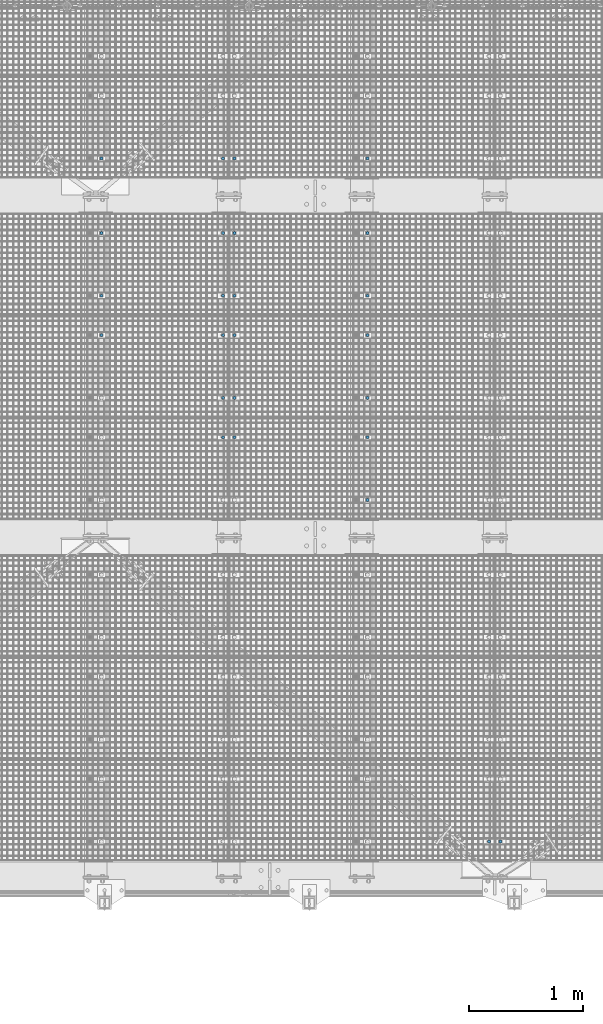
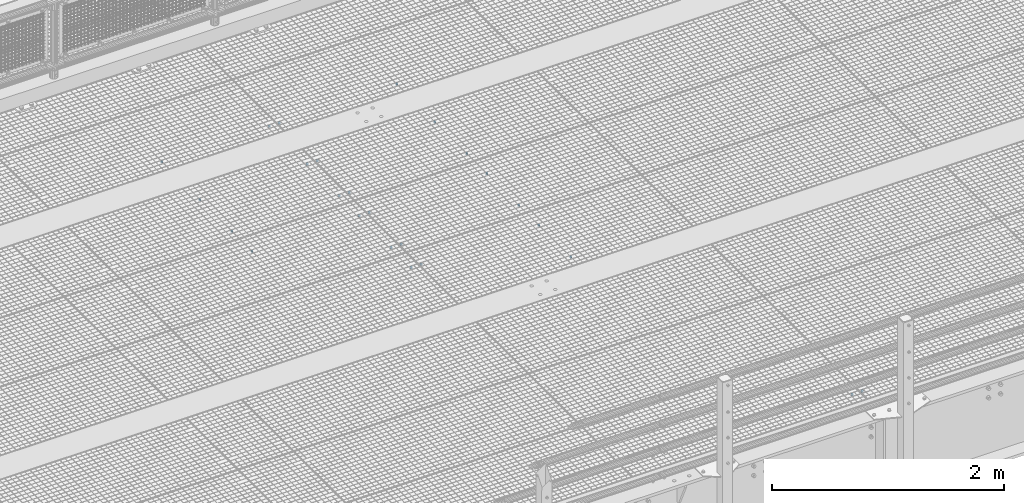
# One storey, part 65 of 1530: 25 mechanical fasteners.
"""IFC2X3 building model written with IfcOpenShell, lengths in millimetres."""

import ifcopenshell
import ifcopenshell.guid

model = None  # the IFC model being written
_history = None  # IfcOwnerHistory: only IFC2X3 demands one
_inside = {}  # id of a spatial element -> (the spatial element, [elements in it])
_under = {}  # id of a project, library or spatial element -> (it, [spatial elements below it])
_declared = {}  # id of a project -> (the project, [libraries it declares])
_typed = {}  # id of a type object -> (the type object, [elements of that type])
_made_of = {}  # id of a material, layer set ... -> (it, [elements and type objects made of it])


def new_model(schema):
    """Start an empty IFC model of exactly this schema.

    Asked for "IFC4X3", IfcOpenShell would pick the latest addendum, in which some entities
    have other attributes; the version numbers below select the first issue.
    IFC2X3 requires an IfcOwnerHistory on every rooted entity: one is made here for all.
    """
    global model, _history
    if schema == "IFC4X3":
        model = ifcopenshell.file(schema_version=(4, 3, 0, 0))
    else:
        model = ifcopenshell.file(schema=schema)
    _inside.clear()
    _under.clear()
    _declared.clear()
    _typed.clear()
    _made_of.clear()
    _history = None
    if model.schema == "IFC2X3":
        org = make("IfcOrganization", Name="unknown")
        user = make(
            "IfcPersonAndOrganization",
            ThePerson=make("IfcPerson", FamilyName="unknown"),
            TheOrganization=org,
        )
        app = make(
            "IfcApplication",
            ApplicationDeveloper=org,
            Version="unknown",
            ApplicationFullName="unknown",
            ApplicationIdentifier="unknown",
        )
        _history = make(
            "IfcOwnerHistory",
            OwningUser=user,
            OwningApplication=app,
            ChangeAction="ADDED",
            CreationDate=0,
        )
    return model


def make(cls, **values):
    """One entity of the class cls with the attributes given. An attribute that is None is left unset."""
    return model.create_entity(
        cls, **{name: value for name, value in values.items() if value is not None}
    )


def rooted(cls, **values):
    """An entity with a GlobalId (a new one), such as an element, a storey or a relation."""
    return make(cls, GlobalId=ifcopenshell.guid.new(), OwnerHistory=_history, **values)


def si_unit(unit_type, name, prefix=None):
    """IfcSIUnit, for example si_unit("LENGTHUNIT", "METRE", prefix="MILLI")."""
    return make("IfcSIUnit", UnitType=unit_type, Prefix=prefix, Name=name)


def assignment(units):
    """IfcUnitAssignment: the units of a project."""
    return None if units is None else make("IfcUnitAssignment", Units=units)


def point(xyz):
    """IfcCartesianPoint."""
    return None if xyz is None else make("IfcCartesianPoint", Coordinates=xyz)


def direction(xyz):
    """IfcDirection."""
    return None if xyz is None else make("IfcDirection", DirectionRatios=xyz)


def frame(location, z_axis=None, x_axis=None):
    """IfcAxis2Placement3D, a coordinate frame: its origin and axes. An axis left out is left unset."""
    return make(
        "IfcAxis2Placement3D",
        Location=point(location),
        Axis=direction(z_axis),
        RefDirection=direction(x_axis),
    )


def origin_with_axes():
    """The frame at (0, 0, 0) with the z axis (0, 0, 1) and the x axis (1, 0, 0) written out."""
    return frame((0.0, 0.0, 0.0), z_axis=(0.0, 0.0, 1.0), x_axis=(1.0, 0.0, 0.0))


def place(relative_to, where):
    """IfcLocalPlacement: puts the frame where relative to a parent placement (None: the world)."""
    return make(
        "IfcLocalPlacement", PlacementRelTo=relative_to, RelativePlacement=where
    )


def context(
    kind, dimensions, precision=None, world=None, true_north=None, identifier=None
):
    """IfcGeometricRepresentationContext, for example the 3D "Model" context."""
    return make(
        "IfcGeometricRepresentationContext",
        ContextIdentifier=identifier,
        ContextType=kind,
        CoordinateSpaceDimension=dimensions,
        Precision=precision,
        WorldCoordinateSystem=world,
        TrueNorth=true_north,
    )


def subcontext(parent, identifier, kind, view, scale=None):
    """IfcGeometricRepresentationSubContext, for example "Body" below "Model"."""
    return make(
        "IfcGeometricRepresentationSubContext",
        ContextIdentifier=identifier,
        ContextType=kind,
        ParentContext=parent,
        TargetScale=scale,
        TargetView=view,
    )


def project(units=None, contexts=None):
    """IfcProject with its units and contexts."""
    return rooted(
        "IfcProject",
        Name="project",
        RepresentationContexts=contexts,
        UnitsInContext=assignment(units),
    )


def spatial(cls, under=None, at=None, **own):
    """A site, building, storey or space (cls), placed at a placement, below another one or the project."""
    s = rooted(cls, ObjectPlacement=at, **own)
    if under is not None:
        _under.setdefault(under.id(), (under, []))[1].append(s)
    return s


def faces_of(points, faces, orient=None, outer=None):
    """IfcFace entities. A face is a list of loops; a loop is a list of indices into points, from 0.

    orient and outer hold one flag for each loop. By default every Orientation is true, the
    first loop of a face is its IfcFaceOuterBound and the others are IfcFaceBound.
    """
    made = []
    for i, loops in enumerate(faces):
        bounds = []
        for j, loop in enumerate(loops):
            is_outer = j == 0 if outer is None else outer[i][j]
            bounds.append(
                make(
                    "IfcFaceOuterBound" if is_outer else "IfcFaceBound",
                    Bound=make("IfcPolyLoop", Polygon=[points[k] for k in loop]),
                    Orientation=True if orient is None else orient[i][j],
                )
            )
        made.append(make("IfcFace", Bounds=bounds))
    return made


def faceted_brep(points, faces, orient=None, outer=None, voids=None):
    """IfcFacetedBrep: a solid bounded by flat faces; with voids (closed shells), ...WithVoids."""
    shared = [point(p) for p in points]
    hull = make("IfcClosedShell", CfsFaces=faces_of(shared, faces, orient, outer))
    if voids is None:
        return make("IfcFacetedBrep", Outer=hull)
    return make(
        "IfcFacetedBrepWithVoids",
        Outer=hull,
        Voids=[
            make(cls, CfsFaces=faces_of(shared, fs, o, b)) for cls, fs, o, b in voids
        ],
    )


def shape(context_of_items, identifier, shape_type, items):
    """IfcShapeRepresentation: the items that make up one representation, for example the "Body"."""
    return make(
        "IfcShapeRepresentation",
        ContextOfItems=context_of_items,
        RepresentationIdentifier=identifier,
        RepresentationType=shape_type,
        Items=items,
    )


def source(mapping_origin, context_of_items, identifier, shape_type, items):
    """IfcRepresentationMap: a shape defined once, which mapped items show again and again."""
    return make(
        "IfcRepresentationMap",
        MappingOrigin=mapping_origin,
        MappedRepresentation=shape(context_of_items, identifier, shape_type, items),
    )


def transform(
    local_origin,
    x_axis=None,
    y_axis=None,
    z_axis=None,
    scale=None,
    scale2=None,
    scale3=None,
    uniform=True,
):
    """IfcCartesianTransformationOperator3D, or its non-uniform kind. x_axis, y_axis, z_axis: its Axis1, 2, 3."""
    if uniform:
        return make(
            "IfcCartesianTransformationOperator3D",
            Axis1=direction(x_axis),
            Axis2=direction(y_axis),
            LocalOrigin=point(local_origin),
            Scale=scale,
            Axis3=direction(z_axis),
        )
    return make(
        "IfcCartesianTransformationOperator3DnonUniform",
        Axis1=direction(x_axis),
        Axis2=direction(y_axis),
        LocalOrigin=point(local_origin),
        Scale=scale,
        Axis3=direction(z_axis),
        Scale2=scale2,
        Scale3=scale3,
    )


def mapped(mapping_source, mapping_target):
    """IfcMappedItem: shows the shape of a source again, moved by a transform."""
    return make(
        "IfcMappedItem", MappingSource=mapping_source, MappingTarget=mapping_target
    )


def material(Name=None, Category=None):
    """IfcMaterial."""
    return make("IfcMaterial", Name=Name, Category=Category)


def made_of(thing, what):
    """Note that an element or type object is made of a material, layer set ...; save() writes the relation."""
    if what is not None:
        _made_of.setdefault(what.id(), (what, []))[1].append(thing)
    return thing


def type_object(cls, material=None, **own):
    """A type object (cls), such as IfcWallType, which elements share."""
    return made_of(rooted(cls, **own), material)


def element(
    cls,
    number,
    at=None,
    inside=None,
    cuts=None,
    type_object=None,
    material=None,
    context=None,
    identifier="Body",
    shape_type=None,
    held_by="IfcProductDefinitionShape",
    body=None,
    shapes=None,
    **own,
):
    """One element of the class cls, such as IfcWall. Its Tag is "e" and its number.

    at: its placement. inside: the storey or other place that contains it. cuts: it is an
    opening in that element (IfcRelVoidsElement). A single representation is given by context,
    identifier, shape_type and body (its items); several are given by shapes. held_by: the class
    of the entity that holds the representations. save() writes the other relations.
    """
    e = rooted(cls, Tag="e%d" % number, ObjectPlacement=at, **own)
    if body is not None:
        shapes = [shape(context, identifier, shape_type, body)]
    if shapes is not None:
        e.Representation = make(held_by, Representations=shapes)
    if inside is not None:
        _inside.setdefault(inside.id(), (inside, []))[1].append(e)
    if cuts is not None:
        rooted(
            "IfcRelVoidsElement", RelatingBuildingElement=cuts, RelatedOpeningElement=e
        )
    if type_object is not None:
        _typed.setdefault(type_object.id(), (type_object, []))[1].append(e)
    return made_of(e, material)


def aggregate(whole, parts):
    """IfcRelAggregates: a whole, such as a stair, and the parts it consists of."""
    return rooted("IfcRelAggregates", RelatingObject=whole, RelatedObjects=parts)


def save(model, path):
    """Write the relations noted so far, then the file.

    IfcRelAggregates (storeys below a building ...), IfcRelContainedInSpatialStructure (elements
    in a storey), IfcRelDefinesByType, IfcRelAssociatesMaterial and IfcRelDeclares: one each for
    every whole, place, type object, material and project.
    """
    for whole, parts in _under.values():
        aggregate(whole, parts)
    for where, things in _inside.values():
        rooted(
            "IfcRelContainedInSpatialStructure",
            RelatedElements=things,
            RelatingStructure=where,
        )
    for kind, things in _typed.values():
        rooted("IfcRelDefinesByType", RelatedObjects=things, RelatingType=kind)
    for what, things in _made_of.values():
        rooted("IfcRelAssociatesMaterial", RelatedObjects=things, RelatingMaterial=what)
    for by, libraries in _declared.values():
        rooted("IfcRelDeclares", RelatingContext=by, RelatedDefinitions=libraries)
    model.write(path)


model = new_model("IFC2X3")

# Units and contexts
model_context = context("Model", 3, precision=1e-05, world=origin_with_axes())
body_context = subcontext(model_context, "Body", "Model", "MODEL_VIEW")
ifc_project = project(units=[si_unit("LENGTHUNIT", "METRE", prefix="MILLI"), si_unit("AREAUNIT", "SQUARE_METRE"), si_unit("VOLUMEUNIT", "CUBIC_METRE"), si_unit("MASSUNIT", "GRAM", prefix="KILO"), si_unit("TIMEUNIT", "SECOND"), si_unit("PLANEANGLEUNIT", "RADIAN"), si_unit("SOLIDANGLEUNIT", "STERADIAN"), si_unit("THERMODYNAMICTEMPERATUREUNIT", "DEGREE_CELSIUS"), si_unit("LUMINOUSINTENSITYUNIT", "LUMEN")], contexts=[model_context])

# Site, building, storey
site_placement = place(None, origin_with_axes())
site = spatial("IfcSite", under=ifc_project, at=site_placement, Name="Brattvåg", CompositionType="ELEMENT")
building_placement = place(site_placement, origin_with_axes())
building = spatial("IfcBuilding", under=site, at=building_placement, Name="Undefined", CompositionType="ELEMENT")
storey_placement = place(building_placement, origin_with_axes())
storey = spatial("IfcBuildingStorey", under=building, at=storey_placement, Name="Undefined", CompositionType="ELEMENT", Elevation=0.0)

# Mechanical fasteners
ifc_material = material(Name="8")
mechanical_fastener_type = type_object("IfcMechanicalFastenerType", Name="Bolt assembly")
shared_shape = source(origin_with_axes(), body_context, "Body", "Brep", [
    faceted_brep([(11.0, -4.99999999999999, 0.0), (9.52627944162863, -4.99999999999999, 5.50000000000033), (5.49999999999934, -4.99999999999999, 9.5262794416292), (-1.13996957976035e-12, -4.99999999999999, 11.0), (-5.50000000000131, -4.99999999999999, 9.52627944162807), (-9.52627944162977, -4.99999999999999, 5.49999999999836), (-11.0, -4.99999999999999, -2.27993915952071e-12), (-9.5262794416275, -4.99999999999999, -5.5000000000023), (-5.49999999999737, -4.99999999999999, -9.52627944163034), (3.40769628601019e-12, -4.99999999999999, -11.0), (5.50000000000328, -4.99999999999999, -9.52627944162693), (9.52627944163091, -4.99999999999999, -5.49999999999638), (9.52627944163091, 10.1, -5.49999999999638), (5.50000000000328, 10.1, -9.52627944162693), (3.40769628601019e-12, 10.1, -11.0), (-5.49999999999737, 10.1, -9.52627944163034), (-9.5262794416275, 10.1, -5.5000000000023), (-11.0, 10.1, -2.27993915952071e-12), (-9.52627944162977, 10.1, 5.49999999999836), (-5.50000000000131, 10.1, 9.52627944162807), (-1.13996957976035e-12, 10.1, 11.0), (5.49999999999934, 10.1, 9.5262794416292), (9.52627944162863, 10.1, 5.50000000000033), (11.0, 10.1, 0.0)], [[[0, 1, 2, 3, 4, 5, 6, 7, 8, 9, 10, 11]], [[12, 13, 14, 15, 16, 17, 18, 19, 20, 21, 22, 23]], [[0, 23, 22, 1]], [[1, 22, 21, 2]], [[2, 21, 20, 3]], [[3, 20, 19, 4]], [[4, 19, 18, 5]], [[5, 18, 17, 6]], [[6, 17, 16, 7]], [[7, 16, 15, 8]], [[8, 15, 14, 9]], [[9, 14, 13, 10]], [[10, 13, 12, 11]], [[11, 12, 23, 0]]]),
])
for number, where, z_axis, x_axis, name in (
    (1, (7628.00477935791, 327.989311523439, -35.0), (0.0, 1.0, 0.0), (1.0, 0.0, 0.0), "Bolt assembly"),
    (2, (5292.00477935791, 6327.98931152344, -35.0), (0.0, 1.0, 0.0), (1.0, 0.0, 0.0), "Bolt assembly"),
    (3, (6460.01192543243, 6327.99, -35.0), (0.0, -1.0, 0.0), (-1.0, 1.99999855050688e-09, 0.0), "Bolt assembly"),
    (4, (5292.00477935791, 5121.98931152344, -35.0), (0.0, 1.0, 0.0), (1.0, 0.0, 0.0), "Bolt assembly"),
    (5, (5292.00477935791, 5671.99411010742, -35.0), (0.0, 1.0, 0.0), (1.0, 0.0, 0.0), "Bolt assembly"),
    (6, (6460.01456069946, 5671.99565124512, -35.0), (0.0, -1.0, 0.0), (-1.0, 1.99999855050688e-09, 0.0), "Bolt assembly"),
    (7, (6460.01192543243, 5121.99, -35.0), (0.0, -1.0, 0.0), (-1.0, 1.99999855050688e-09, 0.0), "Bolt assembly"),
    (8, (5292.00477935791, 4224.98931152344, -35.0), (0.0, 1.0, 0.0), (1.0, 0.0, 0.0), "Bolt assembly"),
    (9, (5292.00477935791, 4774.99411010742, -35.0), (0.0, 1.0, 0.0), (1.0, 0.0, 0.0), "Bolt assembly"),
    (10, (6460.01456069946, 4774.99565124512, -35.0), (0.0, -1.0, 0.0), (-1.0, 1.99999855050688e-09, 0.0), "Bolt assembly"),
    (11, (6460.01192543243, 4224.99, -35.0), (0.0, -1.0, 0.0), (-1.0, 1.99999855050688e-09, 0.0), "Bolt assembly"),
    (12, (5292.00477935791, 3877.99411010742, -35.0), (0.0, 1.0, 0.0), (1.0, 0.0, 0.0), "Bolt assembly"),
    (13, (6460.01456069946, 3877.99565124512, -35.0), (0.0, -1.0, 0.0), (-1.0, 1.99999855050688e-09, 0.0), "Bolt assembly"),
    (14, (6460.01192543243, 3327.99, -35.0), (0.0, -1.0, 0.0), (-1.0, 1.99999855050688e-09, 0.0), "Bolt assembly"),
    (15, (7528.01487731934, 327.990486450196, -35.0), (0.0, -1.0, 0.0), (-1.0, 1.99999855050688e-09, 0.0), "Bolt assembly"),
    (16, (5192.01487731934, 6327.9904864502, -35.0), (0.0, -1.0, 0.0), (-1.0, 1.99999855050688e-09, 0.0), "Bolt assembly"),
    (17, (4124.01192543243, 6327.99, -35.0), (0.0, -1.0, 0.0), (-1.0, 1.99999855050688e-09, 0.0), "Bolt assembly"),
    (18, (5192.01487731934, 5671.99411010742, -35.0), (0.0, -1.0, 0.0), (-1.0, 1.99999855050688e-09, 0.0), "Bolt assembly"),
    (19, (5192.01487731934, 5121.9904864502, -35.0), (0.0, -1.0, 0.0), (-1.0, 1.99999855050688e-09, 0.0), "Bolt assembly"),
    (20, (4124.01456069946, 5671.99565124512, -35.0), (0.0, -1.0, 0.0), (-1.0, 1.99999855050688e-09, 0.0), "Bolt assembly"),
    (21, (4124.01192543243, 5121.99, -35.0), (0.0, -1.0, 0.0), (-1.0, 1.99999855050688e-09, 0.0), "Bolt assembly"),
    (22, (5192.01487731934, 4774.99411010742, -35.0), (0.0, -1.0, 0.0), (-1.0, 1.99999855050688e-09, 0.0), "Bolt assembly"),
    (23, (5192.01487731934, 4224.9904864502, -35.0), (0.0, -1.0, 0.0), (-1.0, 1.99999855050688e-09, 0.0), "Bolt assembly"),
    (24, (4124.01456069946, 4774.99565124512, -35.0), (0.0, -1.0, 0.0), (-1.0, 1.99999855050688e-09, 0.0), "Bolt assembly"),
    (25, (5192.01487731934, 3877.99411010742, -35.0), (0.0, -1.0, 0.0), (-1.0, 1.99999855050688e-09, 0.0), "Bolt assembly"),
):
    element("IfcMechanicalFastener", number, at=place(storey_placement, frame(where, z_axis=z_axis, x_axis=x_axis)), inside=storey, type_object=mechanical_fastener_type, material=ifc_material, Name=name, NominalDiameter=20.0, NominalLength=15.0, context=body_context, shape_type="MappedRepresentation", body=[
        mapped(shared_shape, transform((0.0, 0.0, 0.0))),
    ])

save(model, "model.ifc")
